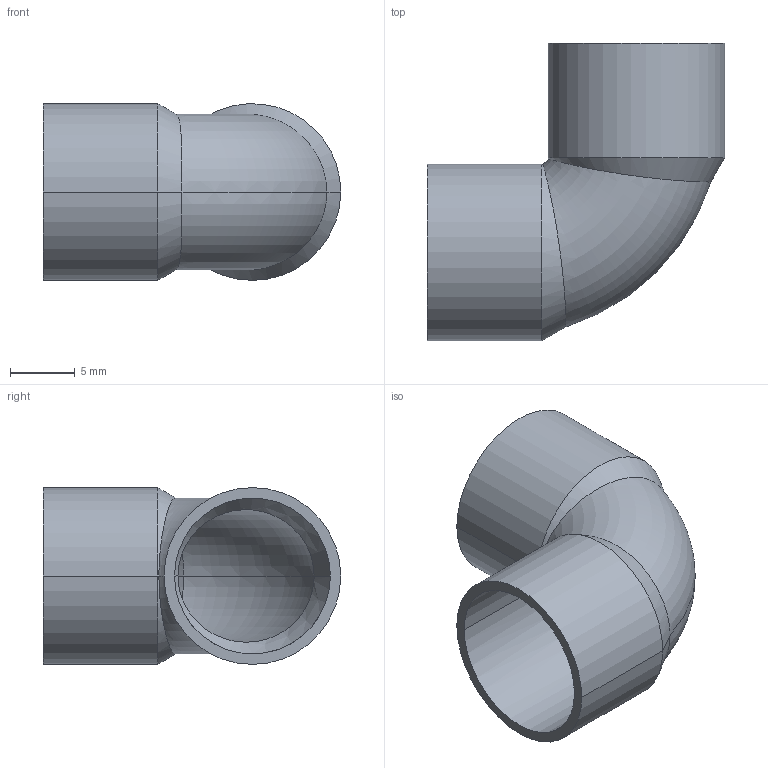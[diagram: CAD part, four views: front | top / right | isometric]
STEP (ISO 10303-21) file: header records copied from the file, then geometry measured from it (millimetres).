
FILE_DESCRIPTION((''),'2;1');
FILE_NAME('G:\SANHA-TERNAT\Technik\Deckel\UUU\Producttek\1509012\1509012(0).stp','2007-07-24T16:03:16',('vdvijverd'),(''),'Autodesk Inventor 8','Autodesk Inventor 8','');
FILE_SCHEMA(('AUTOMOTIVE_DESIGN { 1 0 10303 214 1 1 1 1 }'));
Length unit declared in the file: millimetre
Products named in the file (1): 1509012(0)
Bounding box: 22.9 x 22.9 x 13.6 mm (x, y, z)
Volume: 908.1 mm3; surface area: 2263.3 mm2
Topology: 1 solids, 1 shells, 22 faces, 52 edges, 32 vertices
Faces by surface type: bspline 9, torus 4, cylinder 4, cone 4, plane 1
Entity records: 927 total; most frequent: CARTESIAN_POINT 430, ORIENTED_EDGE 104, DIRECTION 92, EDGE_CURVE 52, AXIS2_PLACEMENT_3D 38, VERTEX_POINT 32, CIRCLE 24, EDGE_LOOP 24
